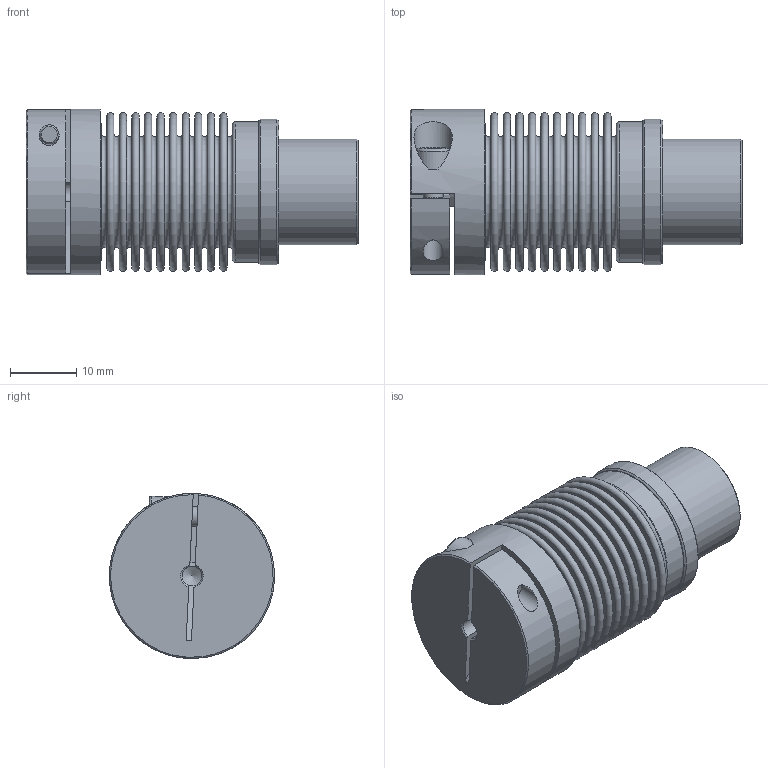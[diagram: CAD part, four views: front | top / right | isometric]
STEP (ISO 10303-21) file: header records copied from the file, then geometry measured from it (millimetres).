
FILE_DESCRIPTION( ( 'Unknown' ), '1' );
FILE_NAME( 'K:/Konstruktion/cad kunden/3D - Daten/KB3/KB3-20-38.stp', 'Unknown', ( 'Unknown' ), ( 'Unknown' ), 'PSStep 16.0.42', 'Unknown', ' ' );
FILE_SCHEMA( ( 'AUTOMOTIVE_DESIGN { 1 0 10303 214 1 1 1 1 }' ) );
Length unit declared in the file: millimetre
Products named in the file (6): Assem1; KN20_Standard_4; Socket Head Cap Screw_DIN_DIN 912 M3 x 10 --- 10N_4; Socket Head Cap Screw_DIN_DIN 912 M4 x 16 --- 16N; SN20; BL20_Standard_0
Assembly tree (5 placements, depth 2):
  Assem1
    KN20_Standard_4
    Socket Head Cap Screw_DIN_DIN 912 M3 x 10 --- 10N_4
    Socket Head Cap Screw_DIN_DIN 912 M4 x 16 --- 16N
    SN20
    BL20_Standard_0
Bounding box: 50.2 x 24.97 x 25 mm (x, y, z)
Volume: 10978.8 mm3; surface area: 17541 mm2
Topology: 5 solids, 5 shells, 171 faces, 323 edges, 208 vertices
Faces by surface type: plane 89, torus 50, cylinder 21, cone 11
Full cylindrical faces by diameter (mm): 3 x3, 3.2 x1, 4 x1, 4.5 x1, 5.5 x1, 7 x1, 16 x1, 21 x3, 21.3 x2, 22 x1, 25 x1
Entity records: 5481 total; most frequent: CARTESIAN_POINT 751, DIRECTION 731, ORIENTED_EDGE 466, AXIS2_PLACEMENT_3D 332, EDGE_LOOP 303, FACE_OUTER_BOUND 236, EDGE_CURVE 233, VERTEX_POINT 216
